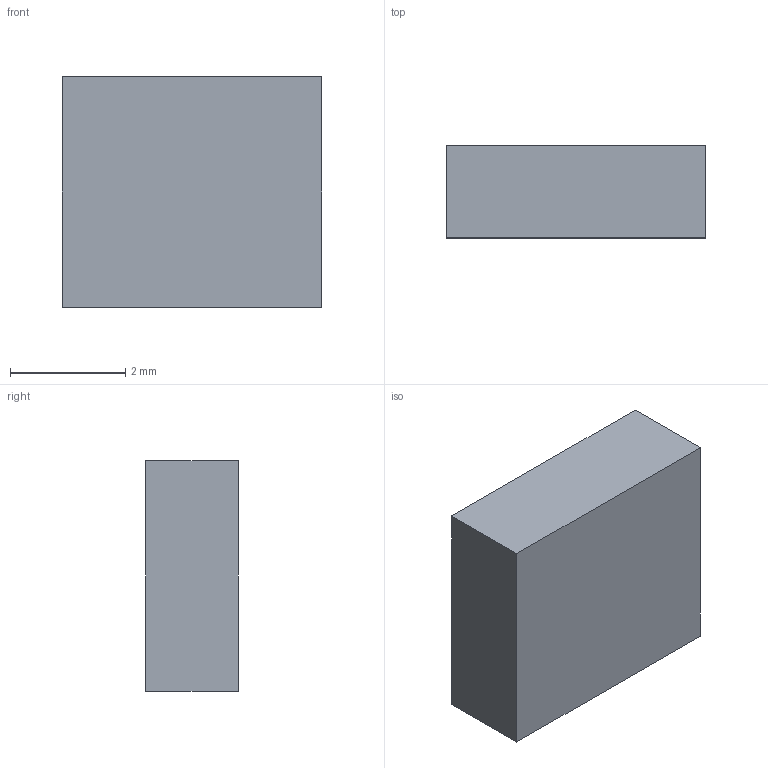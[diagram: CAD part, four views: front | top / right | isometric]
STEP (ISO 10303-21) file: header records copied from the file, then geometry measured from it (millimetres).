
FILE_DESCRIPTION(('Open CASCADE Model'),'2;1');
FILE_NAME('Open CASCADE Shape Model','2026-09-10T23:36:53',('Author'),( 'Open CASCADE'),'Open CASCADE STEP processor 7.9','Open CASCADE 7.9' ,'Unknown');
FILE_SCHEMA(('AUTOMOTIVE_DESIGN { 1 0 10303 214 1 1 1 1 }'));
Length unit declared in the file: millimetre
Products named in the file (1): Open CASCADE STEP translator 7.9 11
Bounding box: 4.5 x 1.6 x 4 mm (x, y, z)
Volume: 28.8 mm3; surface area: 63.2 mm2
Topology: 1 solids, 1 shells, 6 faces, 12 edges, 8 vertices
Faces by surface type: plane 6
Entity records: 322 total; most frequent: CARTESIAN_POINT 51, DIRECTION 50, LINE 36, VECTOR 36, ORIENTED_EDGE 24, PCURVE 24, DEFINITIONAL_REPRESENTATION 24, EDGE_CURVE 12
